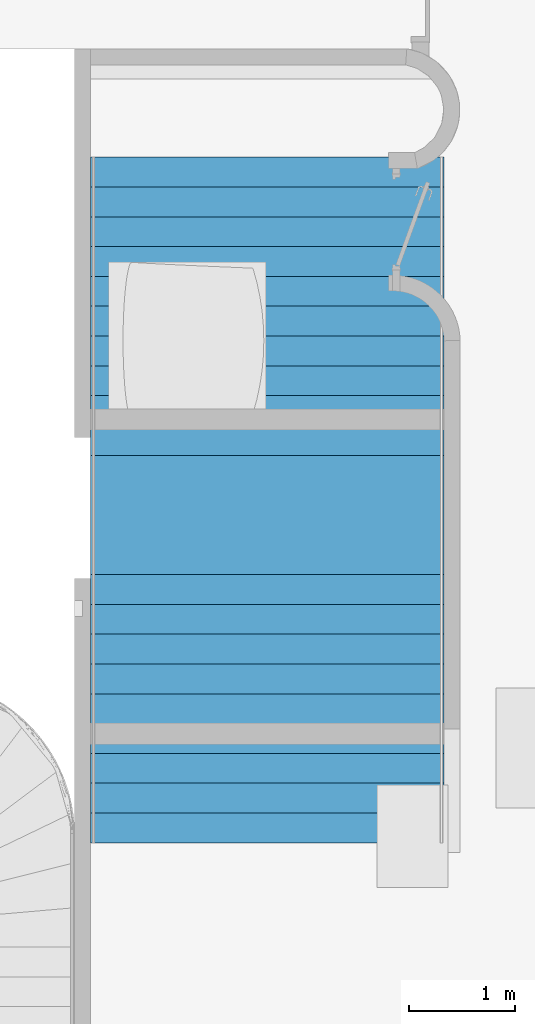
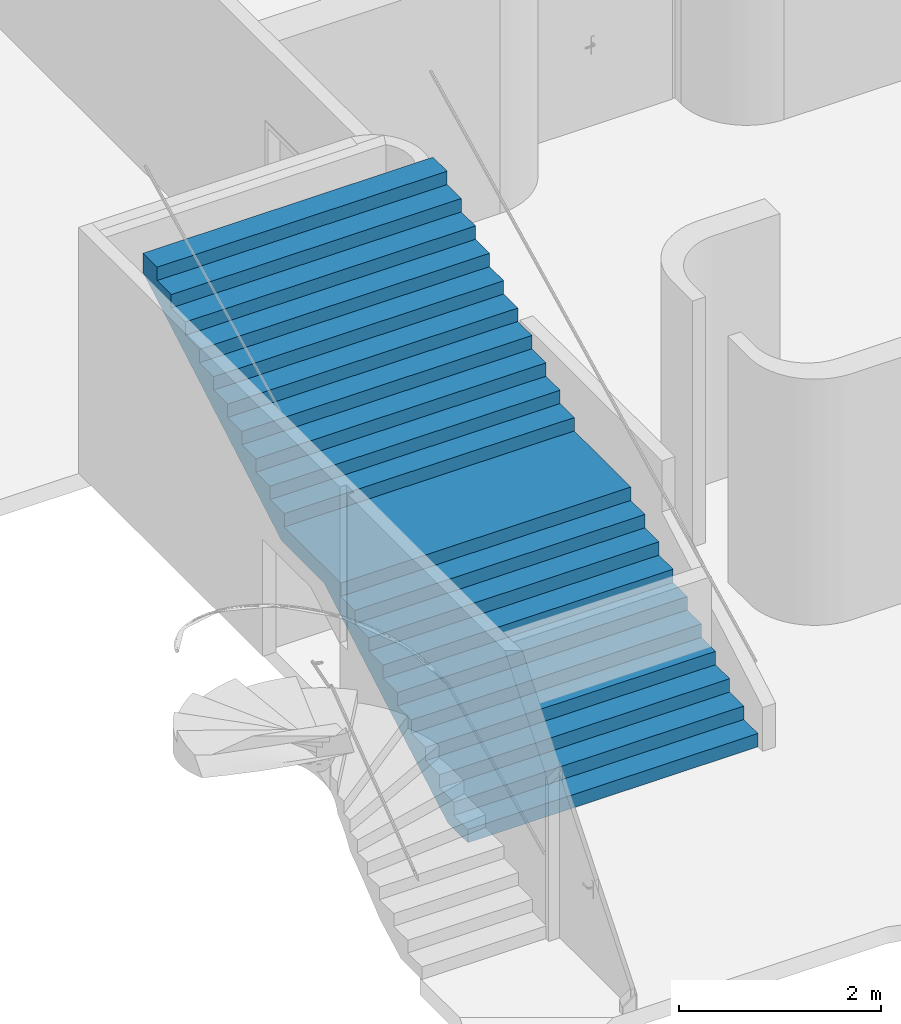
# One storey, part 5 of 10: 1 stair flight, 1 element without a shape of its own.
"""IFC2X3 building model written with IfcOpenShell, lengths in metres."""

from ifc_helpers import new_model, entity, si_unit, converted_unit, derived_unit, direction, frame, origin, place, context, subcontext, project, spatial, faceted_brep, material, type_object, element, aggregate, save


model = new_model("IFC2X3")

# Units and contexts
model_context = context("Model", 3, precision=1e-05, world=origin(), true_north=direction((6.12303176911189e-17, 1.0)))
body_context = subcontext(model_context, "Body", "Model", "MODEL_VIEW")
ifc_project = project(units=[si_unit("LENGTHUNIT", "METRE"), si_unit("AREAUNIT", "SQUARE_METRE"), si_unit("VOLUMEUNIT", "CUBIC_METRE"), converted_unit("PLANEANGLEUNIT", "DEGREE", entity("IfcRatioMeasure", 0.0174532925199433), si_unit("PLANEANGLEUNIT", "RADIAN"), dimensions=[0, 0, 0, 0, 0, 0, 0]), si_unit("MASSUNIT", "GRAM", prefix="KILO"), derived_unit("MASSDENSITYUNIT", [(si_unit("MASSUNIT", "GRAM", prefix="KILO"), 1), (si_unit("LENGTHUNIT", "METRE"), -3)]), derived_unit("MOMENTOFINERTIAUNIT", [(si_unit("LENGTHUNIT", "METRE"), 4)]), si_unit("TIMEUNIT", "SECOND"), si_unit("FREQUENCYUNIT", "HERTZ"), si_unit("THERMODYNAMICTEMPERATUREUNIT", "DEGREE_CELSIUS"), derived_unit("THERMALTRANSMITTANCEUNIT", [(si_unit("MASSUNIT", "GRAM", prefix="KILO"), 1), (si_unit("THERMODYNAMICTEMPERATUREUNIT", "KELVIN"), -1), (si_unit("TIMEUNIT", "SECOND"), -3)]), derived_unit("VOLUMETRICFLOWRATEUNIT", [(si_unit("LENGTHUNIT", "METRE"), 3), (si_unit("TIMEUNIT", "SECOND"), -1)]), si_unit("ELECTRICCURRENTUNIT", "AMPERE"), si_unit("ELECTRICVOLTAGEUNIT", "VOLT"), si_unit("POWERUNIT", "WATT"), si_unit("FORCEUNIT", "NEWTON", prefix="KILO"), si_unit("ILLUMINANCEUNIT", "LUX"), si_unit("LUMINOUSFLUXUNIT", "LUMEN"), si_unit("LUMINOUSINTENSITYUNIT", "CANDELA"), derived_unit("USERDEFINED", [(si_unit("MASSUNIT", "GRAM", prefix="KILO"), -1), (si_unit("LENGTHUNIT", "METRE"), -2), (si_unit("TIMEUNIT", "SECOND"), 3), (si_unit("LUMINOUSFLUXUNIT", "LUMEN"), 1)]), derived_unit("LINEARVELOCITYUNIT", [(si_unit("LENGTHUNIT", "METRE"), 1), (si_unit("TIMEUNIT", "SECOND"), -1)]), si_unit("PRESSUREUNIT", "PASCAL"), derived_unit("USERDEFINED", [(si_unit("LENGTHUNIT", "METRE"), -2), (si_unit("MASSUNIT", "GRAM", prefix="KILO"), 1), (si_unit("TIMEUNIT", "SECOND"), -2)]), derived_unit("LINEARFORCEUNIT", [(si_unit("MASSUNIT", "GRAM", prefix="KILO"), 1), (si_unit("LENGTHUNIT", "METRE"), 1), (si_unit("TIMEUNIT", "SECOND"), -2), (si_unit("LENGTHUNIT", "METRE"), -1)]), derived_unit("PLANARFORCEUNIT", [(si_unit("MASSUNIT", "GRAM", prefix="KILO"), 1), (si_unit("LENGTHUNIT", "METRE"), 1), (si_unit("TIMEUNIT", "SECOND"), -2), (si_unit("LENGTHUNIT", "METRE"), -2)])], contexts=[model_context])

# Site, building, storey
site_placement = place(None, origin())
site = spatial("IfcSite", under=ifc_project, at=site_placement, Name="Default", CompositionType="ELEMENT")
building_placement = place(site_placement, origin())
building = spatial("IfcBuilding", under=site, at=building_placement, CompositionType="ELEMENT")
storey_placement = place(building_placement, frame((0.0, 0.0, 0.893308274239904)))
storey = spatial("IfcBuildingStorey", under=building, at=storey_placement, Name="Niveau 00 - 02", CompositionType="ELEMENT", Elevation=0.893308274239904)

# Stair, stair flight
stair_placement = place(storey_placement, origin())
stair = element("IfcStair", 1, at=stair_placement, inside=storey, Name="Escalier coulé sur place:Escalier", ObjectType="Escalier coulé sur place:Escalier monobloc", ShapeType="STRAIGHT_RUN_STAIR")
ifc_material = material(Name="Béton, coulé sur place")
stair_flight_type = type_object("IfcStairFlightType", Name="Volée monobloc:Profondeur de structure 200 mm", PredefinedType="NOTDEFINED")
stair_flight_placement = place(stair_placement, frame((-9.21398916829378, -5.43557083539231, 0.0)))
stair_flight = element("IfcStairFlight", 2, at=stair_flight_placement, type_object=stair_flight_type, material=ifc_material, Name="Escalier coulé sur place:Escalier:971872 Run 1", ObjectType="Volée monobloc:Profondeur de structure 200 mm", NumberOfRiser=21, NumberOfTreads=20, RiserHeight=0.529709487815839, TreadLength=0.918635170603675, context=body_context, shape_type="Brep", body=[
    faceted_brep([(0.0, 0.279999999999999, 0.161455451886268), (0.0, 0.0, 0.161455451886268), (3.31999999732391, 0.0, 0.161455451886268), (3.31999999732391, 0.279999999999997, 0.161455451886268), (0.0, 0.279999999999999, 0.0), (0.0, 0.0, 0.0), (3.31999999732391, 0.0, 0.0), (3.31999999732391, 0.279999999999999, 0.0), (0.0, 0.559999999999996, 0.322910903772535), (0.0, 0.279999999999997, 0.322910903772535), (3.31999999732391, 0.279999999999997, 0.322910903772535), (3.31999999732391, 0.559999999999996, 0.322910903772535), (0.0, 0.559999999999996, 0.0920431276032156), (0.0, 0.400376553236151, 0.0), (3.31999999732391, 0.400376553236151, 0.0), (3.31999999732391, 0.559999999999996, 0.0920431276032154), (0.0, 0.839999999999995, 0.484366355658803), (0.0, 0.559999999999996, 0.484366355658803), (3.31999999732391, 0.559999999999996, 0.484366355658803), (3.31999999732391, 0.839999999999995, 0.484366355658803), (0.0, 0.839999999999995, 0.253498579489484), (3.31999999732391, 0.839999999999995, 0.253498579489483), (0.0, 2.85353165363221, 1.41455451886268), (3.31999999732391, 2.85353165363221, 1.41455451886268), (3.31999999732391, 2.51999999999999, 1.22223129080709), (3.31999999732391, 2.23999999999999, 1.06077583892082), (3.31999999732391, 1.95999999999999, 0.899320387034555), (3.31999999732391, 1.67999999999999, 0.737864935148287), (3.31999999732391, 1.39999999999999, 0.576409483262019), (3.31999999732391, 1.11999999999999, 0.414954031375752), (0.0, 1.11999999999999, 0.414954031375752), (0.0, 1.39999999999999, 0.576409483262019), (0.0, 1.67999999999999, 0.737864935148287), (0.0, 1.95999999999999, 0.899320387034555), (0.0, 2.23999999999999, 1.06077583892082), (0.0, 2.51999999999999, 1.22223129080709), (0.0, 1.11999999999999, 0.645821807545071), (0.0, 0.839999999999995, 0.645821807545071), (3.31999999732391, 0.839999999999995, 0.645821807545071), (3.31999999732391, 1.11999999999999, 0.645821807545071), (0.0, 1.39999999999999, 0.807277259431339), (0.0, 1.11999999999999, 0.807277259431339), (3.31999999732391, 1.11999999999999, 0.807277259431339), (3.31999999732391, 1.39999999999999, 0.807277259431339), (0.0, 1.67999999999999, 0.968732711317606), (0.0, 1.39999999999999, 0.968732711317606), (3.31999999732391, 1.39999999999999, 0.968732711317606), (3.31999999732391, 1.67999999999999, 0.968732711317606), (0.0, 1.95999999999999, 1.13018816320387), (0.0, 1.67999999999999, 1.13018816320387), (3.31999999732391, 1.67999999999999, 1.13018816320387), (3.31999999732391, 1.95999999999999, 1.13018816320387), (0.0, 2.23999999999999, 1.29164361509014), (0.0, 1.95999999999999, 1.29164361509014), (3.31999999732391, 1.95999999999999, 1.29164361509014), (3.31999999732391, 2.23999999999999, 1.29164361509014), (0.0, 2.51999999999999, 1.45309906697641), (0.0, 2.23999999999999, 1.45309906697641), (3.31999999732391, 2.23999999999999, 1.45309906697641), (3.31999999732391, 2.51999999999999, 1.45309906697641), (0.0, 2.51999999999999, 1.61455451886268), (3.31999999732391, 2.51999999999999, 1.61455451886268), (3.31999999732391, 2.85353165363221, 1.61455451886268), (3.31999999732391, 3.63999999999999, 1.61455451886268), (0.0, 3.63999999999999, 1.61455451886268), (0.0, 2.85353165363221, 1.61455451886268), (0.0, 3.63999999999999, 1.41455451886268), (3.31999999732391, 3.63999999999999, 1.41455451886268), (0.0, 3.63999999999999, 1.77600997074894), (3.31999999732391, 3.63999999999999, 1.77600997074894), (3.31999999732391, 3.69353165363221, 1.77600997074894), (3.31999999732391, 3.91999999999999, 1.77600997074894), (0.0, 3.91999999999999, 1.77600997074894), (0.0, 3.69353165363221, 1.77600997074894), (0.0, 3.91999999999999, 1.54514219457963), (0.0, 3.69353165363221, 1.41455451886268), (3.31999999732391, 3.69353165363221, 1.41455451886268), (3.31999999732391, 3.91999999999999, 1.54514219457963), (0.0, 4.19999999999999, 1.93746542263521), (0.0, 3.91999999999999, 1.93746542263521), (3.31999999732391, 3.91999999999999, 1.93746542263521), (3.31999999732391, 4.19999999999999, 1.93746542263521), (0.0, 4.19999999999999, 1.70659764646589), (3.31999999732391, 4.19999999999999, 1.70659764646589), (0.0, 4.47999999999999, 2.09892087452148), (0.0, 4.19999999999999, 2.09892087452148), (3.31999999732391, 4.19999999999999, 2.09892087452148), (3.31999999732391, 4.47999999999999, 2.09892087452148), (0.0, 4.47999999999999, 1.86805309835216), (3.31999999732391, 4.47999999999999, 1.86805309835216), (0.0, 4.75999999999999, 2.26037632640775), (0.0, 4.47999999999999, 2.26037632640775), (3.31999999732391, 4.47999999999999, 2.26037632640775), (3.31999999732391, 4.75999999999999, 2.26037632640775), (0.0, 4.75999999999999, 2.02950855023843), (3.31999999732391, 4.75999999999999, 2.02950855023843), (0.0, 5.03999999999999, 2.42183177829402), (0.0, 4.75999999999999, 2.42183177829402), (3.31999999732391, 4.75999999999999, 2.42183177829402), (3.31999999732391, 5.03999999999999, 2.42183177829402), (0.0, 5.03999999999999, 2.1909640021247), (3.31999999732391, 5.03999999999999, 2.1909640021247), (0.0, 5.31999999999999, 2.58328723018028), (0.0, 5.03999999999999, 2.58328723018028), (3.31999999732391, 5.03999999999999, 2.58328723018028), (3.31999999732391, 5.31999999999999, 2.58328723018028), (0.0, 5.31999999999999, 2.35241945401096), (3.31999999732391, 5.31999999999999, 2.35241945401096), (0.0, 5.59999999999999, 2.74474268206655), (0.0, 5.31999999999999, 2.74474268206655), (3.31999999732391, 5.31999999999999, 2.74474268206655), (3.31999999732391, 5.59999999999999, 2.74474268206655), (0.0, 5.59999999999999, 2.51387490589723), (3.31999999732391, 5.59999999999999, 2.51387490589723), (0.0, 5.87999999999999, 2.90619813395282), (0.0, 5.59999999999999, 2.90619813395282), (3.31999999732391, 5.59999999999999, 2.90619813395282), (3.31999999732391, 5.87999999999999, 2.90619813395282), (0.0, 5.87999999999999, 2.6753303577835), (3.31999999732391, 5.87999999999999, 2.6753303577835), (0.0, 6.15999999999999, 3.06765358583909), (0.0, 5.87999999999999, 3.06765358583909), (3.31999999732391, 5.87999999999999, 3.06765358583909), (3.31999999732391, 6.15999999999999, 3.06765358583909), (0.0, 6.15999999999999, 2.83678580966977), (3.31999999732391, 6.15999999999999, 2.83678580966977), (0.0, 6.43999999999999, 3.22910903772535), (0.0, 6.15999999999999, 3.22910903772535), (3.31999999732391, 6.15999999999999, 3.22910903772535), (3.31999999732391, 6.43999999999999, 3.22910903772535), (0.0, 6.43999999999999, 2.99824126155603), (3.31999999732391, 6.43999999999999, 2.99824126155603)], [[[0, 1, 2, 3]], [[1, 0, 4, 5]], [[2, 1, 5, 6]], [[3, 2, 6, 7]], [[8, 9, 10, 11]], [[4, 0, 9, 8, 12, 13]], [[0, 3, 10, 9]], [[3, 7, 14, 15, 11, 10]], [[16, 17, 18, 19]], [[17, 16, 20, 12, 8]], [[8, 11, 18, 17]], [[19, 18, 11, 15, 21]], [[5, 4, 13, 14, 7, 6]], [[22, 23, 24, 25, 26, 27, 28, 29, 21, 15, 14, 13, 12, 20, 30, 31, 32, 33, 34, 35]], [[36, 37, 38, 39]], [[37, 36, 30, 20, 16]], [[16, 19, 38, 37]], [[39, 38, 19, 21, 29]], [[40, 41, 42, 43]], [[41, 40, 31, 30, 36]], [[36, 39, 42, 41]], [[43, 42, 39, 29, 28]], [[44, 45, 46, 47]], [[45, 44, 32, 31, 40]], [[40, 43, 46, 45]], [[47, 46, 43, 28, 27]], [[48, 49, 50, 51]], [[49, 48, 33, 32, 44]], [[44, 47, 50, 49]], [[51, 50, 47, 27, 26]], [[52, 53, 54, 55]], [[53, 52, 34, 33, 48]], [[48, 51, 54, 53]], [[55, 54, 51, 26, 25]], [[56, 57, 58, 59]], [[57, 56, 35, 34, 52]], [[52, 55, 58, 57]], [[59, 58, 55, 25, 24]], [[60, 61, 62, 63, 64, 65]], [[56, 60, 65, 64, 66, 22, 35]], [[56, 59, 61, 60]], [[61, 59, 24, 23, 67, 63, 62]], [[68, 69, 70, 71, 72, 73]], [[64, 68, 73, 72, 74, 75, 66]], [[64, 63, 69, 68]], [[69, 63, 67, 76, 77, 71, 70]], [[78, 79, 80, 81]], [[79, 78, 82, 74, 72]], [[72, 71, 80, 79]], [[81, 80, 71, 77, 83]], [[84, 85, 86, 87]], [[85, 84, 88, 82, 78]], [[78, 81, 86, 85]], [[87, 86, 81, 83, 89]], [[90, 91, 92, 93]], [[91, 90, 94, 88, 84]], [[84, 87, 92, 91]], [[93, 92, 87, 89, 95]], [[96, 97, 98, 99]], [[97, 96, 100, 94, 90]], [[90, 93, 98, 97]], [[99, 98, 93, 95, 101]], [[102, 103, 104, 105]], [[103, 102, 106, 100, 96]], [[96, 99, 104, 103]], [[105, 104, 99, 101, 107]], [[108, 109, 110, 111]], [[109, 108, 112, 106, 102]], [[102, 105, 110, 109]], [[111, 110, 105, 107, 113]], [[114, 115, 116, 117]], [[115, 114, 118, 112, 108]], [[108, 111, 116, 115]], [[117, 116, 111, 113, 119]], [[120, 121, 122, 123]], [[121, 120, 124, 118, 114]], [[114, 117, 122, 121]], [[123, 122, 117, 119, 125]], [[126, 127, 128, 129]], [[127, 126, 130, 124, 120]], [[120, 123, 128, 127]], [[129, 128, 123, 125, 131]], [[126, 129, 131, 130]], [[23, 22, 66, 75, 76, 67]], [[76, 75, 74, 82, 88, 94, 100, 106, 112, 118, 124, 130, 131, 125, 119, 113, 107, 101, 95, 89, 83, 77]]]),
])
aggregate(stair, [stair_flight])

save(model, "model.ifc")
